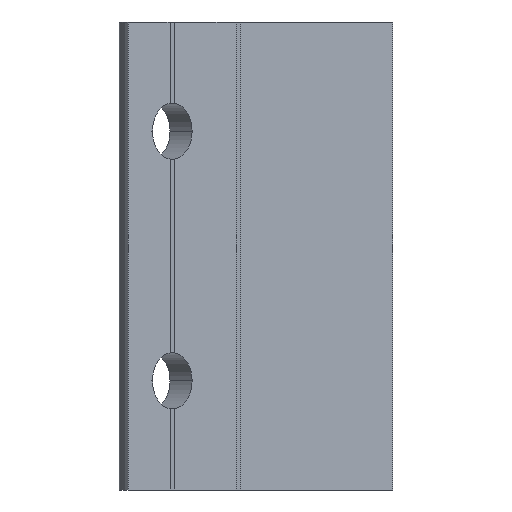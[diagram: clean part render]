
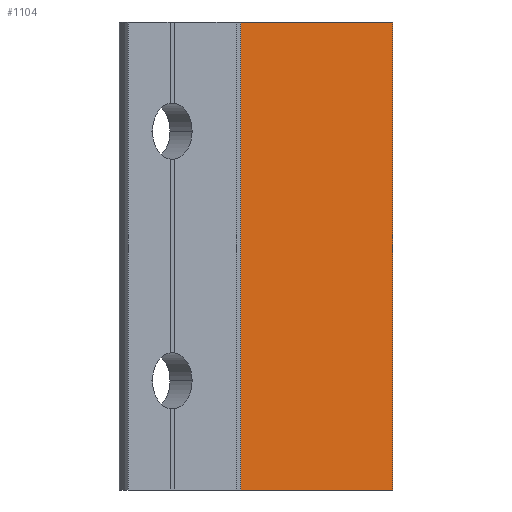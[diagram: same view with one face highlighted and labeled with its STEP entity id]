
A CAD part, left-side view. The second image highlights one B-rep face of the part: STEP entity #1104.
In plain terms, the highlighted planar face has unit normal (-0.707, -0.707, 0).
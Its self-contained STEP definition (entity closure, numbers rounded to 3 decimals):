
#180 = CARTESIAN_POINT ( 'NONE',  ( 0., 0., 0. ) ) ;
#275 = ORIENTED_EDGE ( 'NONE', *, *, #295, .F. ) ;
#295 = EDGE_CURVE ( 'NONE', #584, #1636, #1391, .T. ) ;
#303 = VECTOR ( 'NONE', #903, 1000. ) ;
#321 = EDGE_CURVE ( 'NONE', #920, #1636, #1403, .T. ) ;
#345 = DIRECTION ( 'NONE',  ( 0.707, -0.707, 0. ) ) ;
#392 = PLANE ( 'NONE',  #1775 ) ;
#475 = EDGE_CURVE ( 'NONE', #1658, #584, #1052, .T. ) ;
#555 = CARTESIAN_POINT ( 'NONE',  ( -24.395, 24.395, 0. ) ) ;
#570 = DIRECTION ( 'NONE',  ( -0.707, -0.707, 0. ) ) ;
#584 = VERTEX_POINT ( 'NONE', #1238 ) ;
#903 = DIRECTION ( 'NONE',  ( 0.707, -0.707, 0. ) ) ;
#920 = VERTEX_POINT ( 'NONE', #2038 ) ;
#999 = DIRECTION ( 'NONE',  ( 0.707, -0.707, 0. ) ) ;
#1026 = VECTOR ( 'NONE', #1392, 1000. ) ;
#1031 = LINE ( 'NONE', #555, #1026 ) ;
#1052 = LINE ( 'NONE', #1725, #1749 ) ;
#1089 = CARTESIAN_POINT ( 'NONE',  ( 0., 0., 0. ) ) ;
#1090 = CARTESIAN_POINT ( 'NONE',  ( 0., 0., 0. ) ) ;
#1097 = CARTESIAN_POINT ( 'NONE',  ( -24.395, 24.395, 75. ) ) ;
#1104 = ADVANCED_FACE ( 'NONE', ( #1419 ), #392, .T. ) ;
#1123 = ORIENTED_EDGE ( 'NONE', *, *, #1255, .T. ) ;
#1238 = CARTESIAN_POINT ( 'NONE',  ( 0., 0., 75. ) ) ;
#1255 = EDGE_CURVE ( 'NONE', #1658, #920, #1031, .T. ) ;
#1391 = LINE ( 'NONE', #1090, #1565 ) ;
#1392 = DIRECTION ( 'NONE',  ( 0., 0., -1. ) ) ;
#1403 = LINE ( 'NONE', #2072, #303 ) ;
#1419 = FACE_OUTER_BOUND ( 'NONE', #2184, .T. ) ;
#1565 = VECTOR ( 'NONE', #1794, 1000. ) ;
#1636 = VERTEX_POINT ( 'NONE', #180 ) ;
#1658 = VERTEX_POINT ( 'NONE', #1097 ) ;
#1725 = CARTESIAN_POINT ( 'NONE',  ( -24.395, 24.395, 75. ) ) ;
#1749 = VECTOR ( 'NONE', #345, 1000. ) ;
#1775 = AXIS2_PLACEMENT_3D ( 'NONE', #1089, #570, #999 ) ;
#1794 = DIRECTION ( 'NONE',  ( 0., 0., -1. ) ) ;
#1801 = ORIENTED_EDGE ( 'NONE', *, *, #475, .F. ) ;
#2038 = CARTESIAN_POINT ( 'NONE',  ( -24.395, 24.395, 0. ) ) ;
#2072 = CARTESIAN_POINT ( 'NONE',  ( -24.395, 24.395, 0. ) ) ;
#2184 = EDGE_LOOP ( 'NONE', ( #275, #1801, #1123, #2205 ) ) ;
#2205 = ORIENTED_EDGE ( 'NONE', *, *, #321, .T. ) ;
